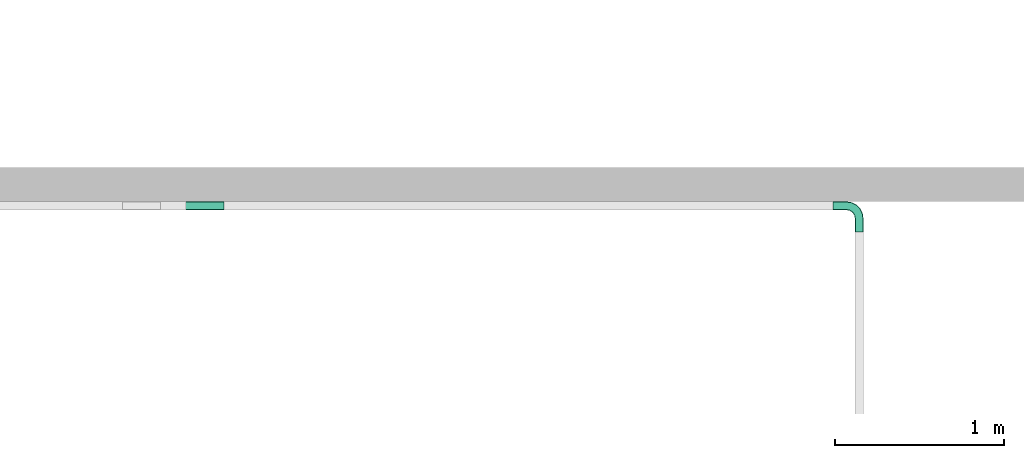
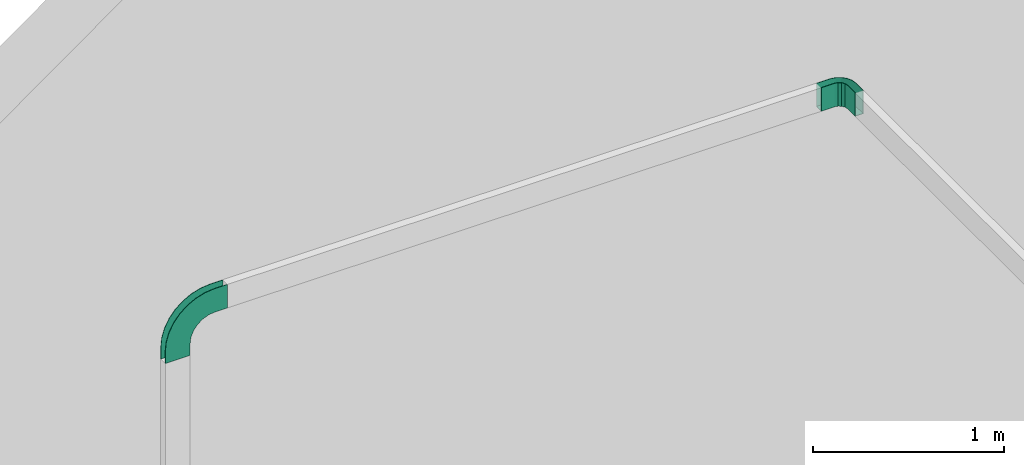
# One storey, part 36 of 197: 2 flow fittings.
"""IFC2X3 building model written with IfcOpenShell, lengths in metres."""

from ifc_helpers import new_model, entity, si_unit, converted_unit, direction, frame, origin, place, context, subcontext, project, spatial, faceted_brep, source, transform, mapped, material, type_object, type_shapes, element, save


model = new_model("IFC2X3")

# Units and contexts
model_context = context("Model", 3, precision=1e-05, world=origin(), true_north=direction((6.123031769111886e-17, 1.0)))
body_context = subcontext(model_context, "Body", "Model", "MODEL_VIEW")
ifc_project = project(units=[si_unit("LENGTHUNIT", "METRE"), converted_unit("PLANEANGLEUNIT", "DEGREE", entity("IfcPlaneAngleMeasure", 0.017453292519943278), si_unit("PLANEANGLEUNIT", "RADIAN"), dimensions=[0, 0, 0, 0, 0, 0, 0]), si_unit("AREAUNIT", "SQUARE_METRE")], contexts=[model_context])

# Site, building, storey
site_placement = place(None, origin())
site = spatial("IfcSite", under=ifc_project, at=site_placement, Name="Default", CompositionType="ELEMENT")
building_placement = place(site_placement, origin())
building = spatial("IfcBuilding", under=site, at=building_placement, CompositionType="ELEMENT")
storey_placement = place(building_placement, origin())
storey = spatial("IfcBuildingStorey", under=building, at=storey_placement, Name="Niveau 0", CompositionType="ELEMENT", Elevation=0.0)

# Flow fittings
ifc_material = material(Name="<Unnamed>")
cable_carrier_fitting_type_1 = type_object("IfcCableCarrierFittingType", Name="Chemin de câbles - Courbure convexe:GOULOTTE INCENDIE", PredefinedType="NOTDEFINED", material=ifc_material)
shared_shape_1 = source(origin(), body_context, "Body", "Brep", [
    faceted_brep([(-0.2999999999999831, -0.07500000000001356, -0.025000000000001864), (-0.2999999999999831, -0.07500000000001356, -0.022460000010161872), (-0.29999999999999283, 0.0724600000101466, -0.022460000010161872), (-0.29999999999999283, 0.0724600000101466, 0.022460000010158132), (-0.2999999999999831, -0.07500000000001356, 0.022460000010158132), (-0.2999999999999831, -0.07500000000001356, 0.024999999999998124), (-0.299999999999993, 0.07499999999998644, 0.024999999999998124), (-0.299999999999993, 0.07499999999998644, -0.025000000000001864), (-0.22499999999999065, -0.0750000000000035, 0.024999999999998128), (-0.21561089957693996, -0.07407525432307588, 0.024999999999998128), (-0.20622179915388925, -0.07315050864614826, 0.024999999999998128), (-0.19683269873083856, -0.07222576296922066, 0.024999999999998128), (-0.1874435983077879, -0.07130101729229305, 0.024999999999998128), (-0.17695825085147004, -0.07026830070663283, 0.024999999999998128), (-0.16647290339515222, -0.06923558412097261, 0.02499999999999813), (-0.15240342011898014, -0.06496765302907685, 0.024999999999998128), (-0.138333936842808, -0.0606997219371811, 0.024999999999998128), (-0.12426445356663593, -0.056431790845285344, 0.024999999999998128), (-0.11019497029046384, -0.05216385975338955, 0.02499999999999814), (-0.09722846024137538, -0.04523311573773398, 0.024999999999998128), (-0.08426195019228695, -0.038302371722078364, 0.02499999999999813), (-0.0712954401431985, -0.031371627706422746, 0.024999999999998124), (-0.05832893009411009, -0.02444088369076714, 0.02499999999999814), (-0.04696368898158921, -0.015113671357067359, 0.024999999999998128), (-0.035598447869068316, -0.0057864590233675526, 0.024999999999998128), (-0.024233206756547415, 0.0035407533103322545, 0.024999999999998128), (-0.012867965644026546, 0.01286796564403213, 0.024999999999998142), (-0.0035407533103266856, 0.02423320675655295, 0.024999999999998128), (0.005786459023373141, 0.03559844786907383, 0.024999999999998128), (0.015113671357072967, 0.04696368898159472, 0.024999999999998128), (0.02444088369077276, 0.058328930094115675, 0.024999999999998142), (0.031371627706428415, 0.071295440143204, 0.024999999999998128), (0.03830237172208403, 0.08426195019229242, 0.024999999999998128), (0.04523311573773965, 0.09722846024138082, 0.024999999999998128), (0.05216385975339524, 0.11019497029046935, 0.024999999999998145), (0.056431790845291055, 0.12426445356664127, 0.024999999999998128), (0.06069972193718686, 0.13833393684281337, 0.024999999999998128), (0.06496765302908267, 0.15240342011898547, 0.02499999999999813), (0.06923558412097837, 0.16647290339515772, 0.024999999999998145), (0.0706766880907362, 0.18110467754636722, 0.024999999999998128), (0.07211779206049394, 0.1957364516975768, 0.024999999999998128), (0.07315050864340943, 0.20622179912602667, 0.024999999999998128), (0.07407525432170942, 0.21561089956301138, 0.024999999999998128), (0.07500000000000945, 0.2249999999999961, 0.024999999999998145), (0.07500000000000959, 0.29999999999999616, 0.024999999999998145), (-0.07499999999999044, 0.29999999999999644, 0.02499999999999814), (-0.07499999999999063, 0.2249999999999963, 0.02499999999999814), (-0.08011112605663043, 0.1861771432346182, 0.02499999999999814), (-0.0950961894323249, 0.14999999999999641, 0.02499999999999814), (-0.11893398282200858, 0.11893398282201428, 0.02499999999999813), (-0.1499999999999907, 0.09509618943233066, 0.02499999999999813), (-0.18617714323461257, 0.08011112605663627, 0.02499999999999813), (-0.2249999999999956, 0.07499999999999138, 0.024999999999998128), (-0.2249999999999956, 0.07499999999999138, -0.025000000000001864), (-0.18617714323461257, 0.08011112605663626, -0.02500000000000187), (-0.1499999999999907, 0.09509618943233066, -0.02500000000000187), (-0.11893398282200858, 0.1189339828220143, -0.02500000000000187), (-0.0950961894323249, 0.1499999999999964, -0.025000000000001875), (-0.08011112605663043, 0.1861771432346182, -0.025000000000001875), (-0.07499999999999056, 0.2249999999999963, -0.025000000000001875), (-0.07499999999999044, 0.2999999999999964, -0.025000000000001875), (0.07500000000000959, 0.29999999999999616, -0.025000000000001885), (0.07500000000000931, 0.22499999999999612, -0.025000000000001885), (0.07407525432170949, 0.2156108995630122, -0.025000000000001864), (0.07315050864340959, 0.2062217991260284, -0.025000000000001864), (0.07211779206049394, 0.19573645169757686, -0.025000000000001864), (0.0706766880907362, 0.18110467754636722, -0.025000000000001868), (0.06923558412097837, 0.16647290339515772, -0.025000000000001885), (0.06496765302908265, 0.15240342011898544, -0.025000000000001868), (0.06069972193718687, 0.1383339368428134, -0.025000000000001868), (0.05643179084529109, 0.12426445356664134, -0.025000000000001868), (0.05216385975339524, 0.11019497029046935, -0.025000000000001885), (0.04523311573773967, 0.09722846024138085, -0.025000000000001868), (0.038302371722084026, 0.08426195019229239, -0.025000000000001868), (0.031371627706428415, 0.071295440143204, -0.025000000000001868), (0.02444088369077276, 0.058328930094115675, -0.02500000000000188), (0.015113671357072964, 0.04696368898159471, -0.025000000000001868), (0.005786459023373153, 0.03559844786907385, -0.025000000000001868), (-0.0035407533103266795, 0.024233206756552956, -0.025000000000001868), (-0.012867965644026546, 0.01286796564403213, -0.02500000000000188), (-0.024233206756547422, 0.003540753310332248, -0.025000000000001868), (-0.0355984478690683, -0.00578645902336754, -0.025000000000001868), (-0.046963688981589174, -0.015113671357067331, -0.02500000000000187), (-0.05832893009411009, -0.02444088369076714, -0.025000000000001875), (-0.07129544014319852, -0.03137162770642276, -0.025000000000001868), (-0.08426195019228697, -0.038302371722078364, -0.025000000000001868), (-0.09722846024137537, -0.04523311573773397, -0.025000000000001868), (-0.11019497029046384, -0.05216385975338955, -0.025000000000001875), (-0.12426445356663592, -0.056431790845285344, -0.025000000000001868), (-0.138333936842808, -0.0606997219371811, -0.025000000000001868), (-0.15240342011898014, -0.06496765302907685, -0.02500000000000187), (-0.16647290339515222, -0.06923558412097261, -0.02500000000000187), (-0.17695825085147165, -0.070268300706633, -0.025000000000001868), (-0.18744359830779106, -0.07130101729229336, -0.025000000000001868), (-0.19683269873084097, -0.0722257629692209, -0.025000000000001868), (-0.20622179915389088, -0.07315050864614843, -0.025000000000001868), (-0.21561089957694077, -0.07407525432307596, -0.025000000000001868), (-0.2249999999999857, -0.07500000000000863, -0.025000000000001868), (-0.2249999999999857, -0.07500000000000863, -0.02246000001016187), (-0.2249999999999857, -0.07500000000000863, 0.02246000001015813), (-0.21561089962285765, -0.07407525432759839, -0.02246000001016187), (-0.2062217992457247, -0.07315050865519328, -0.02246000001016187), (-0.19573645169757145, -0.07211779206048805, -0.02246000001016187), (-0.1811046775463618, -0.07067668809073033, -0.022460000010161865), (-0.16647290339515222, -0.06923558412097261, -0.022460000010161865), (-0.15240342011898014, -0.06496765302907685, -0.02246000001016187), (-0.138333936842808, -0.0606997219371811, -0.022460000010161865), (-0.12426445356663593, -0.056431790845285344, -0.02246000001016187), (-0.11019497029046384, -0.05216385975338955, -0.02246000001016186), (-0.09722846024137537, -0.045233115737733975, -0.02246000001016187), (-0.08426195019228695, -0.038302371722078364, -0.02246000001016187), (-0.07129544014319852, -0.03137162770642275, -0.02246000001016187), (-0.05832893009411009, -0.02444088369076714, -0.02246000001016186), (-0.046963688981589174, -0.01511367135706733, -0.02246000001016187), (-0.0355984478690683, -0.00578645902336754, -0.02246000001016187), (-0.024233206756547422, 0.0035407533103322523, -0.02246000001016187), (-0.012867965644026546, 0.01286796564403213, -0.022460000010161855), (-0.0035407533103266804, 0.024233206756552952, -0.02246000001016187), (0.0057864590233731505, 0.03559844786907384, -0.022460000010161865), (0.015113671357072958, 0.046963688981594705, -0.02246000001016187), (0.02444088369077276, 0.058328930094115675, -0.022460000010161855), (0.031371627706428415, 0.071295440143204, -0.02246000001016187), (0.038302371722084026, 0.08426195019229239, -0.02246000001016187), (0.04523311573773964, 0.09722846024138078, -0.02246000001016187), (0.05216385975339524, 0.11019497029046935, -0.02246000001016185), (0.05643179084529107, 0.12426445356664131, -0.02246000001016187), (0.06069972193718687, 0.1383339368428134, -0.02246000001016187), (0.06496765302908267, 0.15240342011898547, -0.02246000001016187), (0.06923558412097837, 0.16647290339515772, -0.02246000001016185), (0.0706766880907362, 0.1811046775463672, -0.02246000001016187), (0.07211779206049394, 0.1957364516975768, -0.02246000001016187), (0.07355889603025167, 0.21036822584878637, -0.02246000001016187), (0.07500000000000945, 0.2249999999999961, -0.02246000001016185), (0.07500000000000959, 0.29999999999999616, -0.02246000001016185), (-0.07246000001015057, 0.29999999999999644, -0.02246000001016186), (-0.07246000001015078, 0.2249999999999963, -0.02246000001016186), (-0.07765767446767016, 0.18551974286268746, -0.02246000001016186), (-0.09289648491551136, 0.14873000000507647, -0.02246000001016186), (-0.11713793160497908, 0.11713793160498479, -0.022460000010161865), (-0.14873000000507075, 0.09289648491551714, -0.022460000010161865), (-0.1855197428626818, 0.07765767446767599, -0.022460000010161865), (-0.22499999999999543, 0.07246000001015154, -0.02246000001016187), (-0.22499999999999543, 0.07246000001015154, 0.022460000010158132), (-0.1855197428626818, 0.07765767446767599, 0.022460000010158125), (-0.14873000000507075, 0.09289648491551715, 0.022460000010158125), (-0.11713793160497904, 0.1171379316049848, 0.022460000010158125), (-0.0928964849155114, 0.14873000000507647, 0.02246000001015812), (-0.07765767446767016, 0.18551974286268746, 0.02246000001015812), (-0.07246000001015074, 0.2249999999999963, 0.02246000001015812), (-0.07246000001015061, 0.29999999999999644, 0.02246000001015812), (0.07500000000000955, 0.29999999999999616, 0.02246000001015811), (0.07500000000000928, 0.22499999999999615, 0.02246000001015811), (0.07355889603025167, 0.21036822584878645, 0.022460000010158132), (0.07211779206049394, 0.1957364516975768, 0.022460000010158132), (0.0706766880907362, 0.1811046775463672, 0.02246000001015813), (0.0692355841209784, 0.16647290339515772, 0.02246000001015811), (0.06496765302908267, 0.15240342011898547, 0.02246000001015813), (0.06069972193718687, 0.1383339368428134, 0.02246000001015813), (0.05643179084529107, 0.12426445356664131, 0.02246000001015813), (0.05216385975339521, 0.11019497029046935, 0.02246000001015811), (0.045233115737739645, 0.0972284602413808, 0.02246000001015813), (0.038302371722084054, 0.08426195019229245, 0.02246000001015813), (0.03137162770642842, 0.07129544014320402, 0.02246000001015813), (0.024440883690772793, 0.058328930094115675, 0.022460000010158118), (0.01511367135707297, 0.046963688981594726, 0.02246000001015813), (0.005786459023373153, 0.03559844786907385, 0.02246000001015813), (-0.0035407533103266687, 0.024233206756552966, 0.02246000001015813), (-0.012867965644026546, 0.01286796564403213, 0.022460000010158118), (-0.024233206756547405, 0.003540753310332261, 0.02246000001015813), (-0.0355984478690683, -0.00578645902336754, 0.02246000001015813), (-0.046963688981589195, -0.015113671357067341, 0.02246000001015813), (-0.05832893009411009, -0.02444088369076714, 0.02246000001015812), (-0.07129544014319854, -0.03137162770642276, 0.02246000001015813), (-0.08426195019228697, -0.038302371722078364, 0.02246000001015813), (-0.09722846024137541, -0.045233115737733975, 0.02246000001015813), (-0.11019497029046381, -0.05216385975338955, 0.02246000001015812), (-0.12426445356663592, -0.056431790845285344, 0.02246000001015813), (-0.138333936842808, -0.0606997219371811, 0.02246000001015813), (-0.15240342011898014, -0.06496765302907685, 0.02246000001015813), (-0.16647290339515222, -0.06923558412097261, 0.022460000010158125), (-0.18110467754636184, -0.07067668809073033, 0.02246000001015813), (-0.19573645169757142, -0.07211779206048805, 0.022460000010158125), (-0.21036822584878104, -0.07355889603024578, 0.02246000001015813)], [[[0, 1, 2, 3, 4, 5, 6, 7]], [[6, 5, 8, 9, 10, 11, 12, 13, 14, 15, 16, 17, 18, 19, 20, 21, 22, 23, 24, 25, 26, 27, 28, 29, 30, 31, 32, 33, 34, 35, 36, 37, 38, 39, 40, 41, 42, 43, 44, 45, 46, 47, 48, 49, 50, 51, 52]], [[7, 6, 52, 53]], [[53, 54, 55, 56, 57, 58, 59, 60, 61, 62, 63, 64, 65, 66, 67, 68, 69, 70, 71, 72, 73, 74, 75, 76, 77, 78, 79, 80, 81, 82, 83, 84, 85, 86, 87, 88, 89, 90, 91, 92, 93, 94, 95, 96, 97, 0, 7]], [[1, 0, 97, 98]], [[5, 4, 99, 8]], [[2, 1, 98, 100, 101, 102, 103, 104, 105, 106, 107, 108, 109, 110, 111, 112, 113, 114, 115, 116, 117, 118, 119, 120, 121, 122, 123, 124, 125, 126, 127, 128, 129, 130, 131, 132, 133, 134, 135, 136, 137, 138, 139, 140, 141]], [[3, 2, 141, 142]], [[142, 143, 144, 145, 146, 147, 148, 149, 150, 151, 152, 153, 154, 155, 156, 157, 158, 159, 160, 161, 162, 163, 164, 165, 166, 167, 168, 169, 170, 171, 172, 173, 174, 175, 176, 177, 178, 179, 180, 181, 182, 99, 4, 3]], [[54, 53, 52, 51]], [[55, 54, 51, 50]], [[55, 50, 49, 56]], [[47, 46, 59, 58]], [[47, 58, 57, 48]], [[56, 49, 48, 57]], [[104, 103, 102, 101, 100, 98, 97, 96, 95, 94, 93, 92, 91]], [[182, 181, 180, 179, 14, 13, 12, 11, 10, 9, 8, 99]], [[114, 113, 112, 83, 82, 81, 80, 79, 116, 115]], [[24, 23, 22, 171, 170, 169, 168, 167, 26, 25]], [[88, 87, 108, 107, 106, 105, 104, 91, 90, 89]], [[176, 175, 18, 17, 16, 15, 14, 179, 178, 177]], [[84, 83, 112, 111, 110, 109, 108, 87, 86, 85]], [[19, 18, 175, 174, 173, 172, 171, 22, 21, 20]], [[72, 71, 124, 123, 122, 121, 120, 75, 74, 73]], [[31, 30, 163, 162, 161, 160, 159, 34, 33, 32]], [[69, 68, 67, 128, 127, 126, 125, 124, 71, 70]], [[158, 157, 156, 155, 38, 37, 36, 35, 34, 159]], [[131, 130, 129, 128, 67, 66, 65, 64, 63, 62, 132]], [[154, 153, 152, 151, 43, 42, 41, 40, 39, 38, 155]], [[118, 117, 116, 79, 78, 77, 76, 75, 120, 119]], [[28, 27, 26, 167, 166, 165, 164, 163, 30, 29]], [[143, 142, 141, 140]], [[144, 143, 140, 139]], [[145, 144, 139, 138]], [[136, 135, 148, 147]], [[146, 137, 136, 147]], [[137, 146, 145, 138]], [[60, 45, 44, 150, 149, 134, 133, 61]], [[59, 46, 45, 60]], [[132, 62, 61, 133]], [[43, 151, 150, 44]], [[148, 135, 134, 149]]]),
])
type_shapes(cable_carrier_fitting_type_1, [shared_shape_1])
flow_fitting_1_placement = place(storey_placement, frame((-542.919454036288, 151.8253552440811, 2.9257853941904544), z_axis=(0.0, 1.0, 0.0), x_axis=(0.0, 0.0, 1.0)))
element("IfcFlowFitting", 1, at=flow_fitting_1_placement, inside=storey, type_object=cable_carrier_fitting_type_1, material=ifc_material, Name="Chemin de câbles - Courbure convexe:GOULOTTE INCENDIE", ObjectType="Chemin de câbles - Courbure convexe:GOULOTTE INCENDIE", context=body_context, shape_type="MappedRepresentation", body=[
    mapped(shared_shape_1, transform((0.0, 0.0, 0.0), scale=1.0)),
])
cable_carrier_fitting_type_2 = type_object("IfcCableCarrierFittingType", Name="Chemin de câbles - Courbure:GOULOTTE INCENDIE", PredefinedType="NOTDEFINED", material=ifc_material)
shared_shape_2 = source(origin(), body_context, "Body", "Brep", [
    faceted_brep([(-0.1549999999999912, -0.022460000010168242, -0.07246000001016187), (-0.1549999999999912, 0.02246000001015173, -0.07246000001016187), (-0.1549999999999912, 0.02246000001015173, 0.07499999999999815), (-0.1549999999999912, 0.024999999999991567, 0.07499999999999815), (-0.1549999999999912, 0.024999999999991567, -0.07500000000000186), (-0.1549999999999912, -0.02500000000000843, -0.07500000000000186), (-0.1549999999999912, -0.02500000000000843, 0.07499999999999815), (-0.1549999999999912, -0.02246000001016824, 0.07499999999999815), (-0.07499999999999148, -0.02500000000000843, -0.07500000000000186), (-0.07499999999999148, -0.02500000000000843, 0.07499999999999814), (-0.04409830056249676, -0.020105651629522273, 0.07499999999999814), (-0.0162214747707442, -0.005901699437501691, 0.07499999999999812), (0.005901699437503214, 0.016221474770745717, 0.07499999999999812), (0.020105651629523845, 0.04409830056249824, 0.07499999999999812), (0.02500000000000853, 0.07499999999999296, 0.07499999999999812), (0.0250000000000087, 0.15499999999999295, 0.07499999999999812), (0.022460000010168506, 0.15499999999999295, 0.07499999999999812), (0.0224600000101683, 0.07499999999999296, 0.07499999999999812), (0.0176899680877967, 0.044883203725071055, 0.07499999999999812), (0.003846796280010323, 0.01771444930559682, 0.07499999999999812), (-0.01771444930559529, -0.0038467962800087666, 0.07499999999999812), (-0.04488320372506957, -0.01768996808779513, 0.07499999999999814), (-0.07499999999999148, -0.022460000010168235, 0.07499999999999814), (-0.07499999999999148, 0.02246000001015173, 0.07499999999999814), (-0.06494690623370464, 0.024459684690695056, 0.07499999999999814), (-0.0548938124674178, 0.02645936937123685, 0.07499999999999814), (-0.046371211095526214, 0.032153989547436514, 0.07499999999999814), (-0.03784860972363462, 0.037848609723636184, 0.07499999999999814), (-0.03215398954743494, 0.04637121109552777, 0.07499999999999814), (-0.02645936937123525, 0.05489381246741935, 0.07499999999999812), (-0.023985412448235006, 0.06733123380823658, 0.07499999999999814), (-0.02246000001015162, 0.07499999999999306, 0.07499999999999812), (-0.022460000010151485, 0.15499999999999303, 0.07499999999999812), (-0.02499999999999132, 0.15499999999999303, 0.07499999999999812), (-0.024999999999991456, 0.07499999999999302, 0.07499999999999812), (-0.026392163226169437, 0.06800112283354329, 0.07499999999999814), (-0.028806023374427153, 0.05586582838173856, 0.07499999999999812), (-0.03422534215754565, 0.04775524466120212, 0.07499999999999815), (-0.03964466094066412, 0.039644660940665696, 0.07499999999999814), (-0.04775524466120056, 0.034225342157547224, 0.07499999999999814), (-0.055865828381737, 0.028806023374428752, 0.07499999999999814), (-0.06543291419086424, 0.026903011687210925, 0.07499999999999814), (-0.07499999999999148, 0.024999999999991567, 0.07499999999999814), (-0.07499999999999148, -0.022460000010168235, -0.0724600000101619), (-0.04488320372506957, -0.01768996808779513, -0.07246000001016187), (-0.01771444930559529, -0.0038467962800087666, -0.07246000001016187), (0.003846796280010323, 0.01771444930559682, -0.07246000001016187), (0.0176899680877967, 0.044883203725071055, -0.07246000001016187), (0.02246000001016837, 0.07499999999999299, -0.07246000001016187), (0.022460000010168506, 0.15499999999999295, -0.07246000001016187), (-0.022460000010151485, 0.15499999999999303, -0.07246000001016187), (-0.02246000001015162, 0.07499999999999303, -0.07246000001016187), (-0.024459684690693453, 0.0649469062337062, -0.07246000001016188), (-0.02645936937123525, 0.05489381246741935, -0.07246000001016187), (-0.03215398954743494, 0.046371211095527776, -0.07246000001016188), (-0.03784860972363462, 0.03784860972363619, -0.07246000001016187), (-0.046371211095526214, 0.03215398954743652, -0.07246000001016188), (-0.0548938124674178, 0.02645936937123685, -0.07246000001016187), (-0.06494690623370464, 0.024459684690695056, -0.07246000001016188), (-0.07499999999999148, 0.02246000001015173, -0.07246000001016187), (-0.07499999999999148, 0.024999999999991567, -0.07500000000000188), (-0.04409830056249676, -0.020105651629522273, -0.07500000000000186), (-0.06543291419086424, 0.026903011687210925, -0.07500000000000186), (-0.055865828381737, 0.028806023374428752, -0.07500000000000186), (-0.04775524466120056, 0.034225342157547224, -0.07500000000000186), (-0.03964466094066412, 0.039644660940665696, -0.07500000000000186), (-0.03422534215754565, 0.04775524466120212, -0.07500000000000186), (-0.028806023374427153, 0.05586582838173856, -0.07500000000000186), (-0.02690301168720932, 0.06543291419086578, -0.07500000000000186), (-0.024999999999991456, 0.07499999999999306, -0.07500000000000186), (-0.02499999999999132, 0.15499999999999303, -0.07500000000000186), (0.0250000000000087, 0.15499999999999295, -0.07500000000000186), (0.02500000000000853, 0.07499999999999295, -0.07500000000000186), (0.020105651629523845, 0.04409830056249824, -0.07500000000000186), (0.005901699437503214, 0.016221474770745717, -0.07500000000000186), (-0.0162214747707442, -0.005901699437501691, -0.07500000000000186)], [[[0, 1, 2, 3, 4, 5, 6, 7]], [[6, 5, 8, 9]], [[7, 6, 9, 10, 11, 12, 13, 14, 15, 16, 17, 18, 19, 20, 21, 22]], [[2, 23, 24, 25, 26, 27, 28, 29, 30, 31, 32, 33, 34, 35, 36, 37, 38, 39, 40, 41, 42, 3]], [[0, 7, 22, 43]], [[1, 0, 43, 44, 45, 46, 47, 48, 49, 50, 51, 52, 53, 54, 55, 56, 57, 58, 59]], [[2, 1, 59, 23]], [[4, 3, 42, 60]], [[61, 8, 5, 4, 60, 62, 63, 64, 65, 66, 67, 68, 69, 70, 71, 72, 73, 74, 75]], [[61, 75, 11, 10]], [[8, 61, 10, 9]], [[75, 74, 12, 11]], [[12, 74, 73, 13]], [[13, 73, 72, 14]], [[20, 45, 44, 21]], [[22, 21, 44, 43]], [[20, 19, 46, 45]], [[47, 46, 19, 18]], [[48, 47, 18, 17]], [[57, 25, 24, 23, 59, 58]], [[55, 27, 26, 25, 57, 56]], [[51, 31, 30, 29, 53, 52]], [[27, 55, 54, 53, 29, 28]], [[62, 60, 42, 41, 40, 63]], [[39, 38, 65, 64, 63, 40]], [[35, 34, 69, 68, 67, 36]], [[66, 65, 38, 37, 36, 67]], [[70, 33, 32, 50, 49, 16, 15, 71]], [[14, 72, 71, 15]], [[48, 17, 16, 49]], [[31, 51, 50, 32]], [[69, 34, 33, 70]]]),
])
type_shapes(cable_carrier_fitting_type_2, [shared_shape_2])
flow_fitting_2_placement = place(storey_placement, frame((-538.8725951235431, 151.8253552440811, 2.9257853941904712), z_axis=(0.0, 0.0, 1.0), x_axis=(0.0, 1.0, 0.0)))
element("IfcFlowFitting", 2, at=flow_fitting_2_placement, inside=storey, type_object=cable_carrier_fitting_type_2, material=ifc_material, Name="Chemin de câbles - Courbure:GOULOTTE INCENDIE", ObjectType="Chemin de câbles - Courbure:GOULOTTE INCENDIE", context=body_context, shape_type="MappedRepresentation", body=[
    mapped(shared_shape_2, transform((0.0, 0.0, 0.0), scale=1.0)),
])

save(model, "model.ifc")
